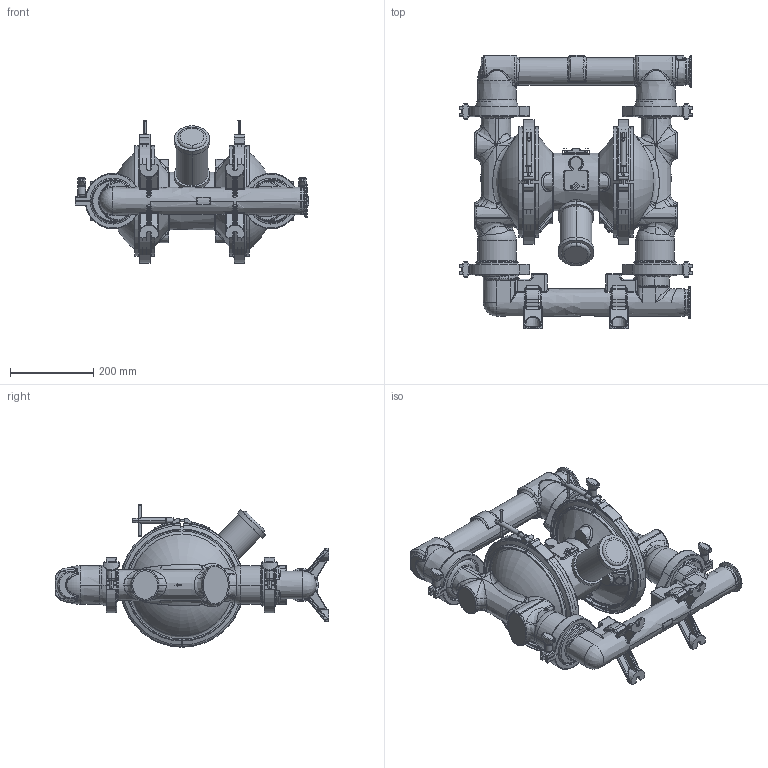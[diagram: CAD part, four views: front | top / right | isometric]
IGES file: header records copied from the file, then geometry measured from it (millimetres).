
Start section:  PTC IGES file: fd3111-en-z.igs
Global section: file name: fd3111-en-z.igs; native system: Creo Parametric by PTC Inc.; preprocessor: 2021072; author: qtmwp1; organization: Unknown; date: 20220214.144431; units: inch
Bounding box: 563.06 x 659.05 x 343.13 mm (x, y, z)
Surface area: 1702246.7 mm2 (no closed solid volume)
Topology: 0 solids, 0 shells, 1762 faces, 8818 edges, 8817 vertices
Faces by surface type: revolution 1007, bspline 755
